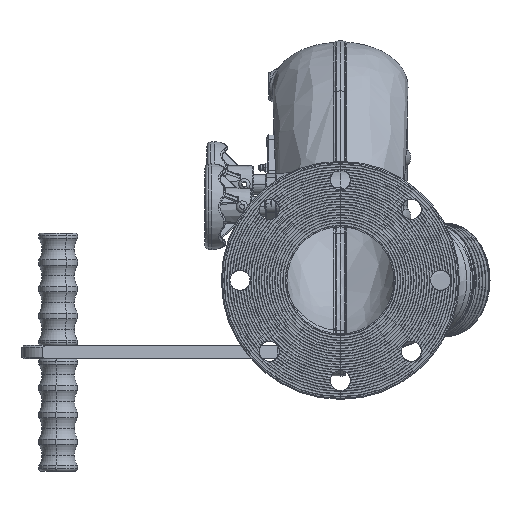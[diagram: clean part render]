
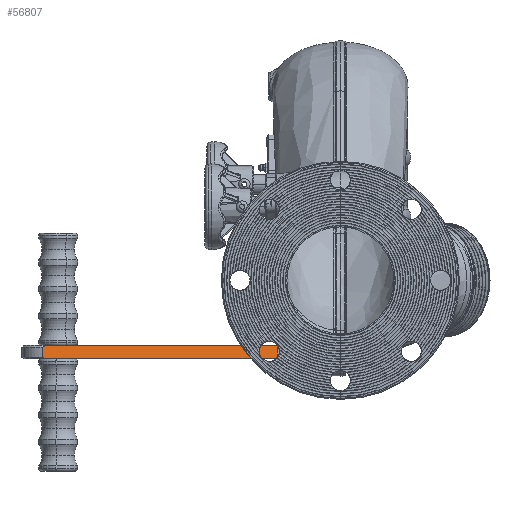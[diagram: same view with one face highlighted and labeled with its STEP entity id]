
A CAD part, front view. The second image highlights one B-rep face of the part: STEP entity #56807.
In plain terms, the highlighted planar face has unit normal (0.423, -0.906, 0).
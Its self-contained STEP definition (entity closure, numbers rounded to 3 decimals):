
#5256 = CARTESIAN_POINT ( 'NONE',  ( -11.022, 4.79, -2.435 ) ) ;
#5572 = CARTESIAN_POINT ( 'NONE',  ( -11.135, 4.737, -2.498 ) ) ;
#7868 = ORIENTED_EDGE ( 'NONE', *, *, #80087, .T. ) ;
#9535 = EDGE_CURVE ( 'NONE', #40171, #95198, #78349, .T. ) ;
#11889 = ORIENTED_EDGE ( 'NONE', *, *, #9535, .T. ) ;
#19042 = CARTESIAN_POINT ( 'NONE',  ( -11.545, 4.546, -2.935 ) ) ;
#22151 = CARTESIAN_POINT ( 'NONE',  ( -0.536, 9.679, -2.935 ) ) ;
#22589 = EDGE_CURVE ( 'NONE', #123326, #87050, #88231, .T. ) ;
#24192 = CARTESIAN_POINT ( 'NONE',  ( -11.135, 4.737, -2.435 ) ) ;
#26896 = LINE ( 'NONE', #91063, #129438 ) ;
#31246 = DIRECTION ( 'NONE',  ( 0.906, 0.423, 0. ) ) ;
#31570 = VECTOR ( 'NONE', #48557, 39.37 ) ;
#32011 = B_SPLINE_CURVE_WITH_KNOTS ( 'NONE', 3,
 ( #103980, #115645, #92796, #32397 ),
 .UNSPECIFIED., .F., .F.,
 ( 4, 4 ),
 ( 0., 0.004 ),
 .UNSPECIFIED. ) ;
#32397 = CARTESIAN_POINT ( 'NONE',  ( -11.135, 4.737, -2.498 ) ) ;
#36618 = EDGE_LOOP ( 'NONE', ( #50188, #125091, #44321, #121728, #11889, #94736, #147944, #7868 ) ) ;
#40171 = VERTEX_POINT ( 'NONE', #113664 ) ;
#41867 = EDGE_CURVE ( 'NONE', #95198, #51127, #26896, .T. ) ;
#44321 = ORIENTED_EDGE ( 'NONE', *, *, #22589, .T. ) ;
#47337 = CARTESIAN_POINT ( 'NONE',  ( -11.545, 4.546, -2.435 ) ) ;
#48557 = DIRECTION ( 'NONE',  ( 0., 0., -1. ) ) ;
#50188 = ORIENTED_EDGE ( 'NONE', *, *, #143102, .F. ) ;
#51127 = VERTEX_POINT ( 'NONE', #119913 ) ;
#51760 = PLANE ( 'NONE',  #95010 ) ;
#56807 = ADVANCED_FACE ( 'NONE', ( #149499 ), #51760, .F. ) ;
#57261 = LINE ( 'NONE', #119805, #138737 ) ;
#61313 = EDGE_CURVE ( 'NONE', #84970, #123326, #32011, .T. ) ;
#63271 = CARTESIAN_POINT ( 'NONE',  ( -11.098, 4.754, -2.895 ) ) ;
#64578 = DIRECTION ( 'NONE',  ( 0.858, 0.4, 0.324 ) ) ;
#74940 = CARTESIAN_POINT ( 'NONE',  ( -0.271, 9.803, -2.535 ) ) ;
#75416 = CARTESIAN_POINT ( 'NONE',  ( -11.06, 4.772, -2.916 ) ) ;
#76606 = DIRECTION ( 'NONE',  ( -0.423, 0.906, 0. ) ) ;
#78349 = LINE ( 'NONE', #19042, #148457 ) ;
#80087 = EDGE_CURVE ( 'NONE', #142343, #113455, #127240, .T. ) ;
#83871 = DIRECTION ( 'NONE',  ( 0.906, 0.423, 0. ) ) ;
#84356 = EDGE_CURVE ( 'NONE', #87050, #40171, #86148, .T. ) ;
#84970 = VERTEX_POINT ( 'NONE', #5256 ) ;
#86148 = B_SPLINE_CURVE_WITH_KNOTS ( 'NONE', 3,
 ( #112096, #63271, #75416, #88175 ),
 .UNSPECIFIED., .F., .F.,
 ( 4, 4 ),
 ( 0., 0.004 ),
 .UNSPECIFIED. ) ;
#87050 = VERTEX_POINT ( 'NONE', #104103 ) ;
#88175 = CARTESIAN_POINT ( 'NONE',  ( -11.022, 4.79, -2.935 ) ) ;
#88231 = LINE ( 'NONE', #24192, #31570 ) ;
#89995 = DIRECTION ( 'NONE',  ( -0.858, -0.4, 0.324 ) ) ;
#91063 = CARTESIAN_POINT ( 'NONE',  ( 1.063, 10.425, -2.331 ) ) ;
#92796 = CARTESIAN_POINT ( 'NONE',  ( -11.098, 4.754, -2.475 ) ) ;
#94736 = ORIENTED_EDGE ( 'NONE', *, *, #41867, .T. ) ;
#95010 = AXIS2_PLACEMENT_3D ( 'NONE', #136528, #76606, #125419 ) ;
#95198 = VERTEX_POINT ( 'NONE', #22151 ) ;
#103980 = CARTESIAN_POINT ( 'NONE',  ( -11.022, 4.79, -2.435 ) ) ;
#104103 = CARTESIAN_POINT ( 'NONE',  ( -11.135, 4.737, -2.873 ) ) ;
#106477 = VECTOR ( 'NONE', #89995, 39.37 ) ;
#111791 = CARTESIAN_POINT ( 'NONE',  ( -9.239, 5.621, 0.849 ) ) ;
#112096 = CARTESIAN_POINT ( 'NONE',  ( -11.135, 4.737, -2.873 ) ) ;
#113455 = VERTEX_POINT ( 'NONE', #122852 ) ;
#113664 = CARTESIAN_POINT ( 'NONE',  ( -11.022, 4.79, -2.935 ) ) ;
#114346 = LINE ( 'NONE', #47337, #116161 ) ;
#115645 = CARTESIAN_POINT ( 'NONE',  ( -11.06, 4.772, -2.454 ) ) ;
#116161 = VECTOR ( 'NONE', #83871, 39.37 ) ;
#119297 = DIRECTION ( 'NONE',  ( 0., 0., -1. ) ) ;
#119805 = CARTESIAN_POINT ( 'NONE',  ( -0.271, 9.803, -2.435 ) ) ;
#119913 = CARTESIAN_POINT ( 'NONE',  ( -0.271, 9.803, -2.835 ) ) ;
#121728 = ORIENTED_EDGE ( 'NONE', *, *, #84356, .T. ) ;
#122852 = CARTESIAN_POINT ( 'NONE',  ( -0.536, 9.679, -2.435 ) ) ;
#123326 = VERTEX_POINT ( 'NONE', #5572 ) ;
#125091 = ORIENTED_EDGE ( 'NONE', *, *, #61313, .T. ) ;
#125419 = DIRECTION ( 'NONE',  ( 0., 0., -1. ) ) ;
#127240 = LINE ( 'NONE', #111791, #106477 ) ;
#129438 = VECTOR ( 'NONE', #64578, 39.37 ) ;
#136528 = CARTESIAN_POINT ( 'NONE',  ( -11.545, 4.546, -2.935 ) ) ;
#138737 = VECTOR ( 'NONE', #119297, 39.37 ) ;
#142343 = VERTEX_POINT ( 'NONE', #74940 ) ;
#143102 = EDGE_CURVE ( 'NONE', #84970, #113455, #114346, .T. ) ;
#144696 = EDGE_CURVE ( 'NONE', #142343, #51127, #57261, .T. ) ;
#147944 = ORIENTED_EDGE ( 'NONE', *, *, #144696, .F. ) ;
#148457 = VECTOR ( 'NONE', #31246, 39.37 ) ;
#149499 = FACE_OUTER_BOUND ( 'NONE', #36618, .T. ) ;
